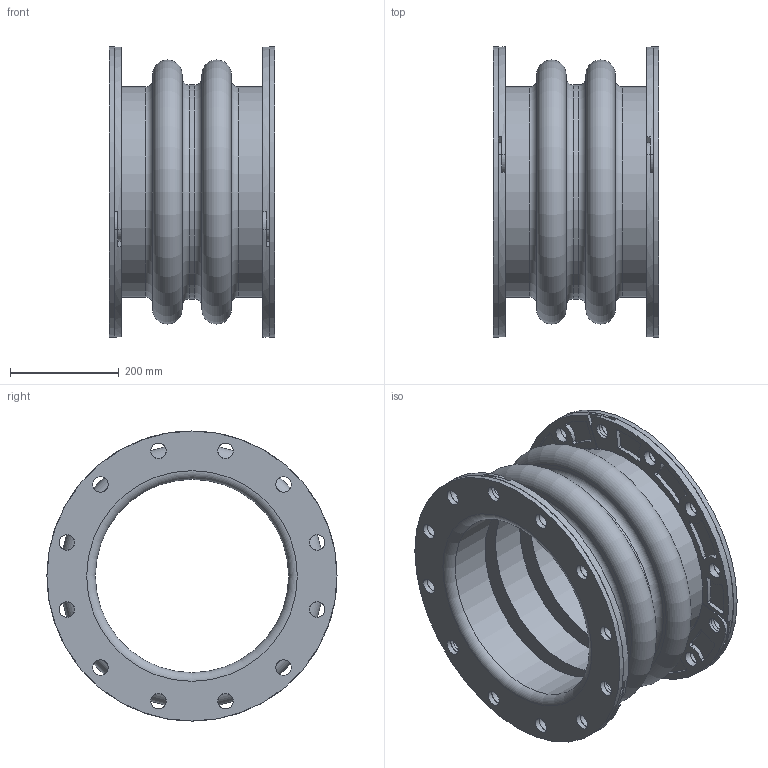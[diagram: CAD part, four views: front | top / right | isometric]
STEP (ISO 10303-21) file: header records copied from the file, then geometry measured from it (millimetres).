
FILE_DESCRIPTION(/* description */ (''),/* implementation_level */ '2;1');
FILE_NAME(/* name */ 'C:\001_Work\Designs\Mercer2014\MQInventor2014\RajR\500 Style\502\STP\502 14IDx12FF.stp',/* time_stamp */ '2016-03-16T14:57:41-04:00',/* author */ ('mquog'),/* organization */ (''),/* preprocessor_version */ 'ST-DEVELOPER v15.2',/* originating_system */ 'Autodesk Inventor 2014',/* authorisation */ '');
FILE_SCHEMA (('AUTOMOTIVE_DESIGN { 1 0 10303 214 3 1 1 }'));
Length unit declared in the file: centimetre
Products named in the file (1): 502 14IDx12FF
Bounding box: 304.8 x 533.4 x 533.4 mm (x, y, z)
Volume: 12660901.2 mm3; surface area: 2101373.7 mm2
Topology: 3 solids, 3 shells, 386 faces, 1032 edges, 674 vertices
Faces by surface type: cylinder 278, plane 88, torus 12, cone 8
Full cylindrical faces by diameter (mm): 28.575 x54, 355.6 x3, 387.35 x2, 393.7 x1, 533.4 x2
Entity records: 12490 total; most frequent: DIRECTION 2326, CARTESIAN_POINT 1999, ORIENTED_EDGE 1888, AXIS2_PLACEMENT_3D 995, EDGE_CURVE 944, VERTEX_POINT 668, CIRCLE 608, EDGE_LOOP 592
